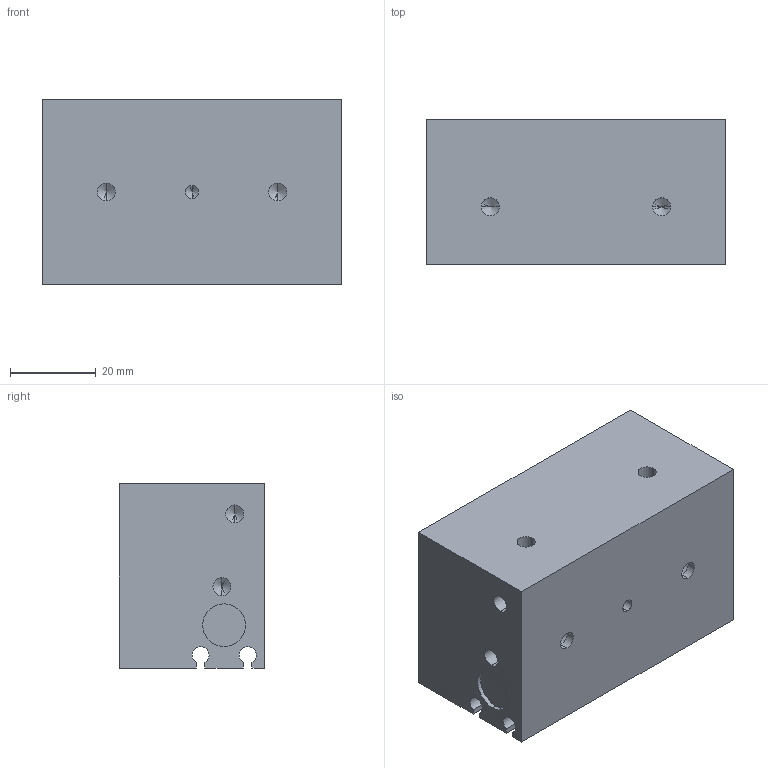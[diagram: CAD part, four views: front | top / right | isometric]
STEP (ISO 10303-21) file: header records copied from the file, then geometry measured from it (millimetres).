
FILE_DESCRIPTION (( 'STEP AP203' ), '1' );
FILE_NAME ('CHU 16 CORP.STEP', '2012-12-14T10:14:26', ( '' ), ( '' ), 'SwSTEP 2.0', 'SolidWorks 2010', '' );
FILE_SCHEMA (( 'CONFIG_CONTROL_DESIGN' ));
Length unit declared in the file: millimetre
Products named in the file (1): CHU 16 CORP
Bounding box: 70 x 34 x 43 mm (x, y, z)
Volume: 81897.1 mm3; surface area: 17777.9 mm2
Topology: 1 solids, 1 shells, 61 faces, 154 edges, 91 vertices
Faces by surface type: cylinder 28, plane 19, cone 14
Entity records: 1811 total; most frequent: DIRECTION 320, CARTESIAN_POINT 293, ORIENTED_EDGE 280, EDGE_CURVE 140, AXIS2_PLACEMENT_3D 118, VERTEX_POINT 91, LINE 84, VECTOR 84
